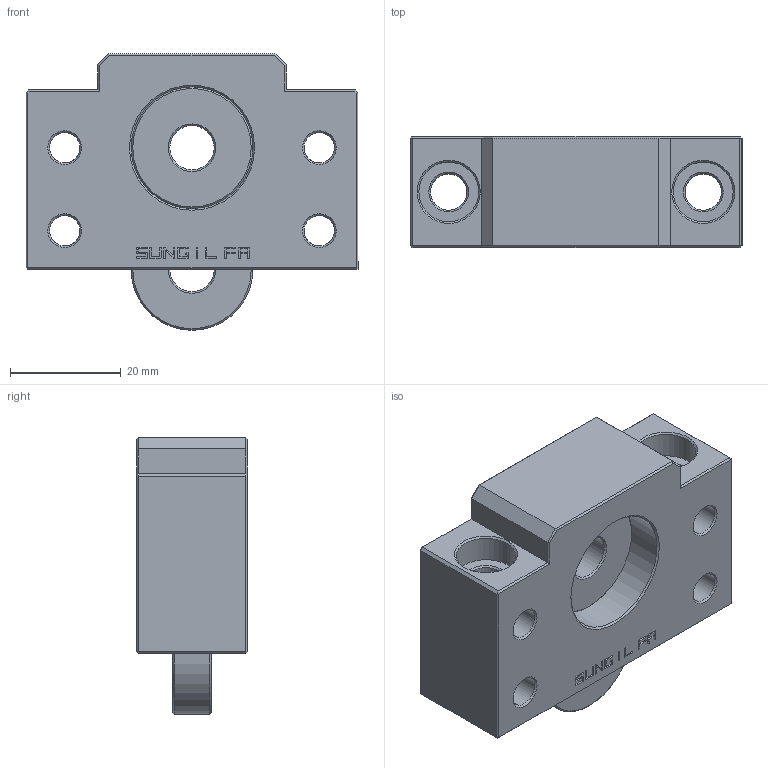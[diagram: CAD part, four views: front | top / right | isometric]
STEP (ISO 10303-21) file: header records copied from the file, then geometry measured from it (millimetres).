
FILE_DESCRIPTION( ( 'Unknown' ), '1' );
FILE_NAME( 'D:/3D/憮んお嶸棉/20060119/SBF TYPE/SBF10/SBF10(ASSM).stp', 'Unknown', ( 'Unknown' ), ( 'Unknown' ), 'XStep 1.0', 'Unknown', ' ' );
FILE_SCHEMA( ( 'CONFIG_CONTROL_DESIGN' ) );
Length unit declared in the file: millimetre
Products named in the file (3): Assem1; bearing(608ZZ); SBF10(housing)
Bounding box: 60 x 20 x 50 mm (x, y, z)
Surface area: 24086.6 mm2
Topology: 4 solids, 4 shells, 792 faces, 2140 edges, 1396 vertices
Faces by surface type: plane 418, cylinder 334, cone 40
Full cylindrical faces by diameter (mm): 5.5 x16, 6.6 x4, 8 x2, 10.8 x4, 22 x4
Entity records: 12949 total; most frequent: CARTESIAN_POINT 2648, DIRECTION 2169, ORIENTED_EDGE 2066, EDGE_CURVE 1033, AXIS2_PLACEMENT_3D 745, VERTEX_POINT 696, LINE 679, VECTOR 679
